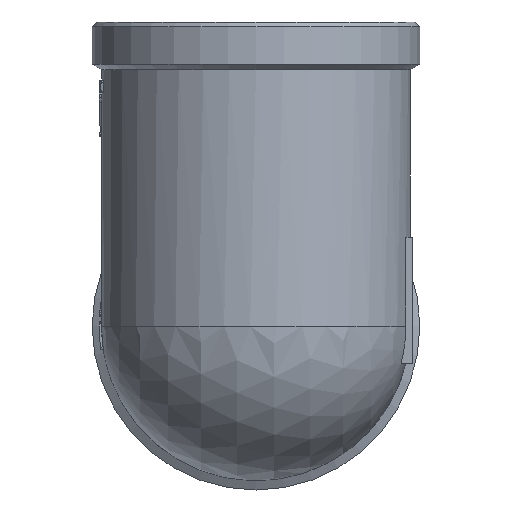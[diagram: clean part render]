
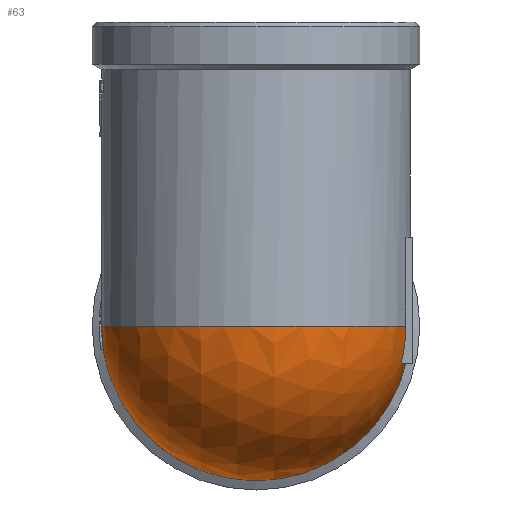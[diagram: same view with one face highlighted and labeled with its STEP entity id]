
A CAD part, front view. The second image highlights one B-rep face of the part: STEP entity #63.
In plain terms, the highlighted spherical face has radius 33 mm.
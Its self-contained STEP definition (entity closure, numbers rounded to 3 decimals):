
#63=ADVANCED_FACE('',(#338),#340,.T.);
#338=FACE_BOUND('',#339,.T.);
#339=EDGE_LOOP('',(#1660,#1661,#1662,#1663));
#340=SPHERICAL_SURFACE('',#341,33.);
#341=AXIS2_PLACEMENT_3D('',#342,#343,#344);
#342=CARTESIAN_POINT('',(0.,0.,0.));
#343=DIRECTION('',(-1.,0.,0.));
#344=DIRECTION('',(0.,0.,-1.));
#1660=ORIENTED_EDGE('',*,*,#2583,.F.);
#1661=ORIENTED_EDGE('',*,*,#2578,.F.);
#1662=ORIENTED_EDGE('',*,*,#2591,.F.);
#1663=ORIENTED_EDGE('',*,*,#2647,.F.);
#2578=EDGE_CURVE('',#3002,#3004,#3005,.T.);
#2583=EDGE_CURVE('',#3004,#3008,#3012,.F.);
#2591=EDGE_CURVE('',#3023,#3002,#3025,.T.);
#2647=EDGE_CURVE('',#3008,#3023,#3136,.F.);
#3002=VERTEX_POINT('',#3747);
#3004=VERTEX_POINT('',#3751);
#3005=CIRCLE('',#3752,32.015);
#3008=VERTEX_POINT('',#3762);
#3012=CIRCLE('',#3770,32.015);
#3023=VERTEX_POINT('',#3848);
#3025=CIRCLE('',#3870,33.);
#3136=CIRCLE('',#4687,33.);
#3747=CARTESIAN_POINT('',(32.015,-8.001,0.));
#3751=CARTESIAN_POINT('',(31.,-8.001,-8.001));
#3752=AXIS2_PLACEMENT_3D('',#3753,#3754,#3755);
#3753=CARTESIAN_POINT('',(0.,-8.001,0.));
#3754=DIRECTION('',(0.,1.,0.));
#3755=DIRECTION('',(1.,0.,0.));
#3762=CARTESIAN_POINT('',(32.015,0.,-8.001));
#3770=AXIS2_PLACEMENT_3D('',#3771,#3772,#3773);
#3771=CARTESIAN_POINT('',(0.,0.,-8.001));
#3772=DIRECTION('',(0.,0.,-1.));
#3773=DIRECTION('',(1.,0.,0.));
#3848=CARTESIAN_POINT('',(-33.,0.,0.));
#3870=AXIS2_PLACEMENT_3D('',#3871,#3872,#3873);
#3871=CARTESIAN_POINT('',(0.,0.,0.));
#3872=DIRECTION('',(0.,0.,1.));
#3873=DIRECTION('',(-1.,0.,0.));
#4687=AXIS2_PLACEMENT_3D('',#4688,#4689,#4690);
#4688=CARTESIAN_POINT('',(0.,0.,0.));
#4689=DIRECTION('',(0.,-1.,0.));
#4690=DIRECTION('',(-1.,0.,0.));
